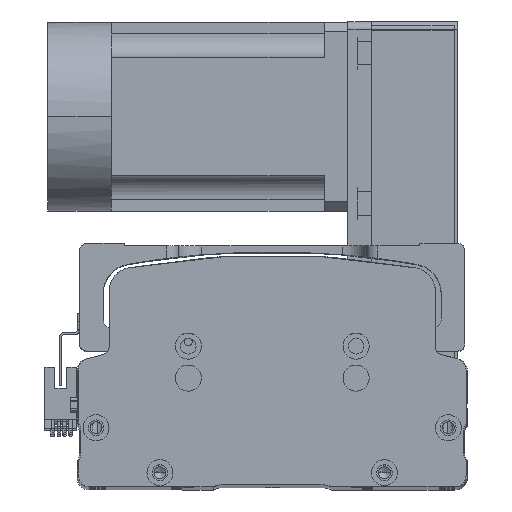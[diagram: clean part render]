
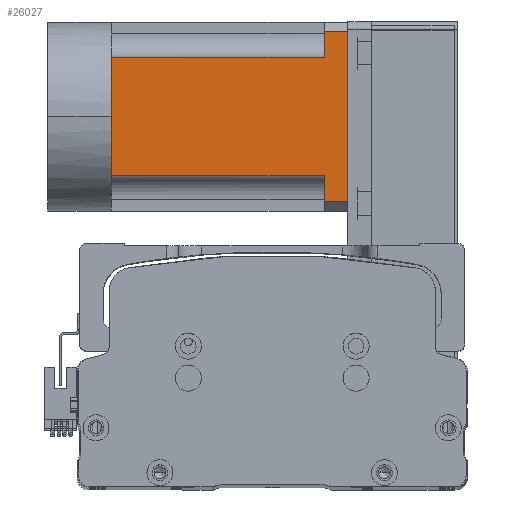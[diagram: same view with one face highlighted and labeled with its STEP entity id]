
A CAD part, top view. The second image highlights one B-rep face of the part: STEP entity #26027.
In plain terms, the highlighted planar face has unit normal (0, 0, 1) as drawn and (0, 0, -1) by its records, which use the part's own axes.
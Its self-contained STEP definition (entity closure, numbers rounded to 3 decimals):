
#230 = VERTEX_POINT ( 'NONE', #27317 ) ;
#431 = EDGE_CURVE ( 'NONE', #57662, #15729, #38074, .T. ) ;
#1347 = LINE ( 'NONE', #13582, #12703 ) ;
#2093 = ORIENTED_EDGE ( 'NONE', *, *, #14323, .T. ) ;
#3678 = EDGE_LOOP ( 'NONE', ( #8881, #41409, #48873, #51804, #2093, #60162, #6816, #11329, #48766 ) ) ;
#4215 = VERTEX_POINT ( 'NONE', #35569 ) ;
#4623 = AXIS2_PLACEMENT_3D ( 'NONE', #13815, #57542, #28587 ) ;
#5504 = LINE ( 'NONE', #38043, #53830 ) ;
#5535 = CARTESIAN_POINT ( 'NONE',  ( -40., 0., -40. ) ) ;
#6816 = ORIENTED_EDGE ( 'NONE', *, *, #431, .T. ) ;
#7428 = VERTEX_POINT ( 'NONE', #53949 ) ;
#8881 = ORIENTED_EDGE ( 'NONE', *, *, #36792, .F. ) ;
#10176 = VERTEX_POINT ( 'NONE', #15598 ) ;
#11329 = ORIENTED_EDGE ( 'NONE', *, *, #21036, .T. ) ;
#11491 = LINE ( 'NONE', #17325, #28822 ) ;
#12703 = VECTOR ( 'NONE', #18502, 1000. ) ;
#12773 = VECTOR ( 'NONE', #43160, 1000. ) ;
#13011 = VECTOR ( 'NONE', #55879, 1000. ) ;
#13582 = CARTESIAN_POINT ( 'NONE',  ( 36., -27., -40. ) ) ;
#13815 = CARTESIAN_POINT ( 'NONE',  ( -40., -27., -40. ) ) ;
#14032 = PLANE ( 'NONE',  #4623 ) ;
#14323 = EDGE_CURVE ( 'NONE', #55471, #27124, #46643, .T. ) ;
#15598 = CARTESIAN_POINT ( 'NONE',  ( -36., 100., -40. ) ) ;
#15729 = VERTEX_POINT ( 'NONE', #50268 ) ;
#17118 = CARTESIAN_POINT ( 'NONE',  ( -40., 0., -40. ) ) ;
#17265 = CARTESIAN_POINT ( 'NONE',  ( -36., -27., -40. ) ) ;
#17325 = CARTESIAN_POINT ( 'NONE',  ( -40., 90., -40. ) ) ;
#17949 = CARTESIAN_POINT ( 'NONE',  ( -40., 90., -40. ) ) ;
#18502 = DIRECTION ( 'NONE',  ( 0., -1., 0. ) ) ;
#20416 = CARTESIAN_POINT ( 'NONE',  ( 25., 0., -40. ) ) ;
#20995 = VECTOR ( 'NONE', #36665, 1000. ) ;
#21036 = EDGE_CURVE ( 'NONE', #15729, #7428, #11491, .T. ) ;
#22594 = DIRECTION ( 'NONE',  ( -1., 0., 0. ) ) ;
#24158 = DIRECTION ( 'NONE',  ( 0., 1., 0. ) ) ;
#24752 = VERTEX_POINT ( 'NONE', #41179 ) ;
#26027 = ADVANCED_FACE ( 'NONE', ( #32347 ), #14032, .T. ) ;
#27049 = EDGE_CURVE ( 'NONE', #230, #24752, #49582, .T. ) ;
#27124 = VERTEX_POINT ( 'NONE', #33075 ) ;
#27317 = CARTESIAN_POINT ( 'NONE',  ( 36., 90., -40. ) ) ;
#28294 = VECTOR ( 'NONE', #24158, 1000. ) ;
#28587 = DIRECTION ( 'NONE',  ( -1., 0., 0. ) ) ;
#28822 = VECTOR ( 'NONE', #51105, 1000. ) ;
#29012 = EDGE_CURVE ( 'NONE', #27124, #57662, #32738, .T. ) ;
#32347 = FACE_OUTER_BOUND ( 'NONE', #3678, .T. ) ;
#32738 = LINE ( 'NONE', #5535, #59952 ) ;
#33075 = CARTESIAN_POINT ( 'NONE',  ( 0., 0., -40. ) ) ;
#33227 = CARTESIAN_POINT ( 'NONE',  ( 25., -27., -40. ) ) ;
#35569 = CARTESIAN_POINT ( 'NONE',  ( 36., 100., -40. ) ) ;
#36665 = DIRECTION ( 'NONE',  ( -1., 0., 0. ) ) ;
#36792 = EDGE_CURVE ( 'NONE', #4215, #10176, #5504, .T. ) ;
#38043 = CARTESIAN_POINT ( 'NONE',  ( -40., 100., -40. ) ) ;
#38045 = CARTESIAN_POINT ( 'NONE',  ( -25., 0., -40. ) ) ;
#38074 = LINE ( 'NONE', #53073, #28294 ) ;
#38788 = EDGE_CURVE ( 'NONE', #24752, #55471, #51312, .T. ) ;
#41179 = CARTESIAN_POINT ( 'NONE',  ( 25., 90., -40. ) ) ;
#41409 = ORIENTED_EDGE ( 'NONE', *, *, #62105, .T. ) ;
#42942 = DIRECTION ( 'NONE',  ( -1., 0., 0. ) ) ;
#43160 = DIRECTION ( 'NONE',  ( 0., -1., 0. ) ) ;
#44150 = DIRECTION ( 'NONE',  ( -1., 0., 0. ) ) ;
#46643 = LINE ( 'NONE', #17118, #20995 ) ;
#48766 = ORIENTED_EDGE ( 'NONE', *, *, #55087, .T. ) ;
#48873 = ORIENTED_EDGE ( 'NONE', *, *, #27049, .T. ) ;
#49582 = LINE ( 'NONE', #17949, #54117 ) ;
#50268 = CARTESIAN_POINT ( 'NONE',  ( -25., 90., -40. ) ) ;
#51105 = DIRECTION ( 'NONE',  ( -1., 0., 0. ) ) ;
#51312 = LINE ( 'NONE', #33227, #12773 ) ;
#51548 = LINE ( 'NONE', #17265, #13011 ) ;
#51804 = ORIENTED_EDGE ( 'NONE', *, *, #38788, .T. ) ;
#53073 = CARTESIAN_POINT ( 'NONE',  ( -25., -27., -40. ) ) ;
#53830 = VECTOR ( 'NONE', #42942, 1000. ) ;
#53949 = CARTESIAN_POINT ( 'NONE',  ( -36., 90., -40. ) ) ;
#54117 = VECTOR ( 'NONE', #22594, 1000. ) ;
#55087 = EDGE_CURVE ( 'NONE', #7428, #10176, #51548, .T. ) ;
#55471 = VERTEX_POINT ( 'NONE', #20416 ) ;
#55879 = DIRECTION ( 'NONE',  ( 0., 1., 0. ) ) ;
#57542 = DIRECTION ( 'NONE',  ( 0., 0., -1. ) ) ;
#57662 = VERTEX_POINT ( 'NONE', #38045 ) ;
#59952 = VECTOR ( 'NONE', #44150, 1000. ) ;
#60162 = ORIENTED_EDGE ( 'NONE', *, *, #29012, .T. ) ;
#62105 = EDGE_CURVE ( 'NONE', #4215, #230, #1347, .T. ) ;
